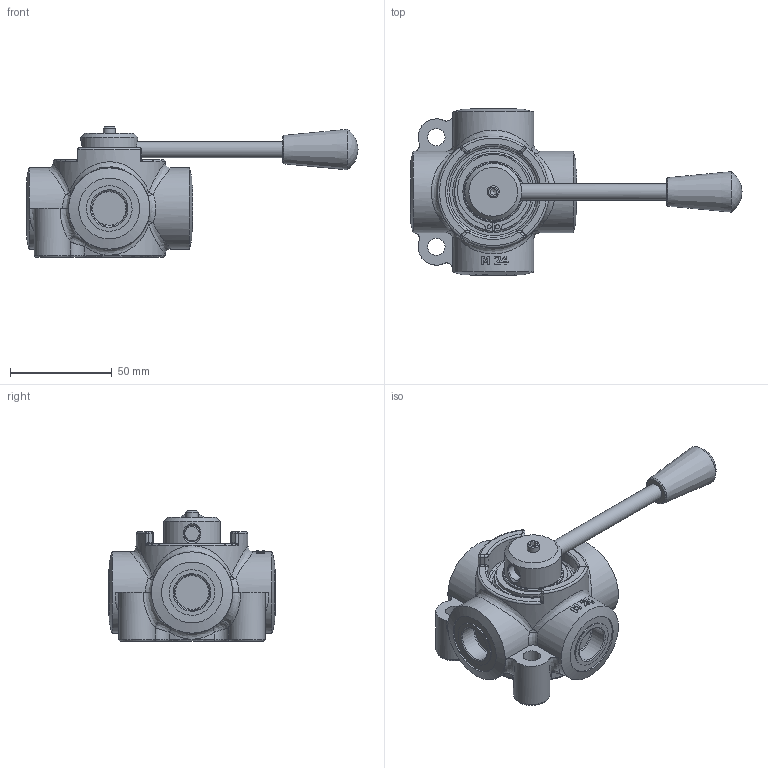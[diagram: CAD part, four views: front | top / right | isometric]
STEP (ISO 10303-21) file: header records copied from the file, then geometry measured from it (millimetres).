
FILE_DESCRIPTION((''),'2;1');
FILE_NAME('G:\HV_HYDRAULIC\AZIENDA_HV_HYDRAULIC\ARCHIVIO_DISEGNI\5_PRODOTTI_FINITI\2_DEVIATORI_INVERTITORI\7001_D4\7001.0101_D4_1-2_G_ca_(HV)\7001.0101.stp','2024-08-21T11:48:40',('christian.scardovi'),(''),'Autodesk Inventor 2013','Autodesk Inventor 2013','');
FILE_SCHEMA(('AUTOMOTIVE_DESIGN { 1 0 10303 214 1 1 1 1 }'));
Length unit declared in the file: millimetre
Products named in the file (1): 7001.0101
Bounding box: 163.5 x 82 x 64.25 mm (x, y, z)
Volume: 203020.2 mm3; surface area: 35396.6 mm2
Topology: 1 solids, 1 shells, 287 faces, 683 edges, 410 vertices
Faces by surface type: plane 86, cylinder 85, torus 45, bspline 43, cone 17, sphere 11
Full cylindrical faces by diameter (mm): 2 x4, 4 x2, 6 x1, 8 x2, 8.5 x2, 17.5 x4, 22.5 x4, 28 x1, 28.6 x2, 29.9 x2, 30 x5, 38 x2, 40 x4, 45 x2
Entity records: 13033 total; most frequent: CARTESIAN_POINT 6742, DIRECTION 1210, ORIENTED_EDGE 1154, EDGE_CURVE 577, AXIS2_PLACEMENT_3D 531, EDGE_LOOP 388, VERTEX_POINT 387, FACE_OUTER_BOUND 287
